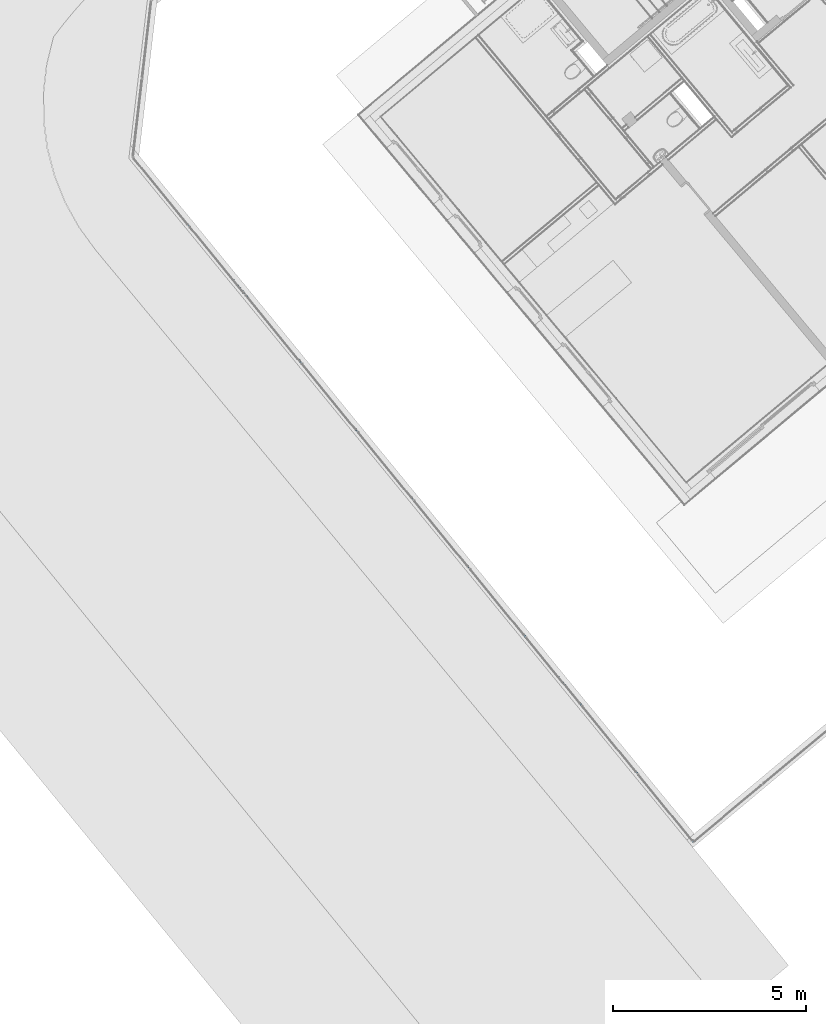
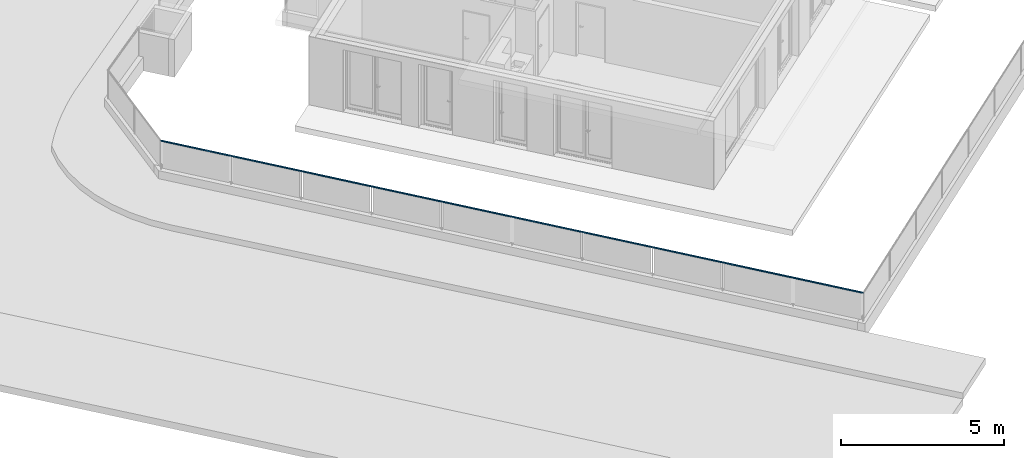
# One storey, part 19 of 75: 1 building element part, 1 element without a shape of its own.
"""IFC4 building model written with IfcOpenShell, lengths in metres."""

from ifc_helpers import new_model, entity, si_unit, converted_unit, derived_unit, direction, frame, origin_with_axes, place, context, subcontext, project, spatial, polygons, material, type_object, element, aggregate, save


model = new_model("IFC4")

# Units and contexts
model_context = context("Model", 3, precision=1e-05, world=origin_with_axes(), true_north=direction((0.0, 1.0)))
body_context = subcontext(model_context, "Body", "Model", "MODEL_VIEW")
ifc_project = project(units=[si_unit("LENGTHUNIT", "METRE"), si_unit("AREAUNIT", "SQUARE_METRE"), si_unit("VOLUMEUNIT", "CUBIC_METRE"), converted_unit("PLANEANGLEUNIT", "DEGREE", entity("IfcPlaneAngleMeasure", 0.0174532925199), si_unit("PLANEANGLEUNIT", "RADIAN"), dimensions=[0, 0, 0, 0, 0, 0, 0]), converted_unit("TIMEUNIT", "Year", entity("IfcTimeMeasure", 31556926.0), si_unit("TIMEUNIT", "SECOND"), dimensions=[0, 0, 1, 0, 0, 0, 0]), si_unit("MASSUNIT", "GRAM", prefix="KILO"), si_unit("THERMODYNAMICTEMPERATUREUNIT", "DEGREE_CELSIUS"), si_unit("LUMINOUSINTENSITYUNIT", "LUMEN"), si_unit("ENERGYUNIT", "JOULE", prefix="MEGA"), derived_unit("THERMALCONDUCTANCEUNIT", [(si_unit("POWERUNIT", "WATT"), 1), (si_unit("LENGTHUNIT", "METRE"), -1), (si_unit("THERMODYNAMICTEMPERATUREUNIT", "KELVIN"), -1)]), derived_unit("SPECIFICHEATCAPACITYUNIT", [(si_unit("ENERGYUNIT", "JOULE"), 1), (si_unit("MASSUNIT", "GRAM", prefix="KILO"), -1), (si_unit("THERMODYNAMICTEMPERATUREUNIT", "KELVIN"), -1)]), derived_unit("MASSDENSITYUNIT", [(si_unit("MASSUNIT", "GRAM", prefix="KILO"), 1), (si_unit("VOLUMEUNIT", "CUBIC_METRE"), -1)])], contexts=[model_context])

# Site, building, storey
site_placement = place(None, frame((-0.00153261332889, -0.00661245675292, 0.0), z_axis=(0.0, 0.0, 1.0), x_axis=(1.0, 0.0, 0.0)))
site = spatial("IfcSite", under=ifc_project, at=site_placement, Name="Gelände", CompositionType="ELEMENT")
building_placement = place(site_placement, origin_with_axes())
building = spatial("IfcBuilding", under=site, at=building_placement, Name="Gebäude", CompositionType="ELEMENT")
storey_placement = place(building_placement, frame((0.0, 0.0, -0.22), z_axis=(0.0, 0.0, 1.0), x_axis=(1.0, 0.0, 0.0)))
storey = spatial("IfcBuildingStorey", under=building, at=storey_placement, Name="EG", CompositionType="ELEMENT", Elevation=-0.22)

# Railing, building element part
railing_type = type_object("IfcRailingType", Name="Geländerart", PredefinedType="NOTDEFINED")
railing_placement = place(storey_placement, frame((-12.1608341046, 23.557810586, 0.523948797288), z_axis=(0.0, 0.0, 1.0), x_axis=(1.0, 0.0, 0.0)))
railing = element("IfcRailing", 1, at=railing_placement, inside=storey, type_object=railing_type, Name="Geländer - 001", PredefinedType="NOTDEFINED")
ifc_material = material(Name="Aluminium")
building_element_part_placement = place(railing_placement, origin_with_axes())
building_element_part = element("IfcBuildingElementPart", 2, at=building_element_part_placement, material=ifc_material, Name="Aluminium", PredefinedType="NOTDEFINED", context=body_context, shape_type="Tessellation", body=[
    polygons([(-2.3774611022, -5.65005751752, 1.07636363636), (-2.37770623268, -5.65012924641, 1.07634109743), (12.1743622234, -23.4243631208, 1.07634109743), (12.1743936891, -23.4240304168, 1.07636363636), (-2.3774611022, -5.65005751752, 1.07818181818), (-2.37739667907, -5.65003866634, 1.07820551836), (-2.37395885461, -5.64903270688, 1.0792391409), (-2.37047128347, -5.64801219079, 1.07983921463), (-2.36696050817, -5.64698488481, 1.08000117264), (-2.3668940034, -5.64696542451, 1.08), (-2.36682749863, -5.64694596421, 1.08000117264), (-2.36331672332, -5.64591865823, 1.07983921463), (-2.35982915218, -5.64489814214, 1.0792391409), (-2.35639132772, -5.64389218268, 1.07820551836), (-2.35632690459, -5.64387333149, 1.07818181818), (-2.35632690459, -5.64387333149, 1.07636363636), (-2.35608177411, -5.64380160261, 1.07634109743), (-2.35517402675, -5.64353598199, 1.0761115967), (-2.35430786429, -5.64328252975, 1.07565956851), (-2.35350960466, -5.6430489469, 1.07499874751), (-2.35280350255, -5.64284233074, 1.0741492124), (-2.35221101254, -5.6426689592, 1.07313677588), (-2.35175013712, -5.64253410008, 1.07199220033), (-2.35143487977, -5.642441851, 1.07075026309), (-2.35127481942, -5.64239501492, 1.06944869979), (-2.35127481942, -5.64239501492, 1.06812705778), (-2.35143487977, -5.642441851, 1.06682549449), (-2.35175013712, -5.64253410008, 1.06558355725), (-2.35221101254, -5.6426689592, 1.06443898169), (-2.35280350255, -5.64284233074, 1.06342654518), (-2.35350960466, -5.6430489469, 1.06257701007), (-2.35430786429, -5.64328252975, 1.06191618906), (-2.35517402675, -5.64353598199, 1.06146416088), (-2.35608177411, -5.64380160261, 1.06123466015), (-2.35632690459, -5.64387333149, 1.06121212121), (-2.35632690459, -5.64387333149, 1.05818181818), (-2.35649264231, -5.64392182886, 1.05810011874), (-2.35726473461, -5.64414775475, 1.05758389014), (-2.3579625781, -5.64435195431, 1.05688326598), (-2.35856496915, -5.64452822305, 1.05601953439), (-2.35905360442, -5.64467120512, 1.05501893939), (-2.35941363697, -5.6447765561, 1.05391188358), (-2.3596341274, -5.64484107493, 1.05273200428), (-2.35970837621, -5.64486280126, 1.05151515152), (-2.3596341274, -5.64484107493, 1.05029829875), (-2.35941363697, -5.6447765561, 1.04911841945), (-2.35905360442, -5.64467120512, 1.04801136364), (-2.35856496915, -5.64452822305, 1.04701076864), (-2.3579625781, -5.64435195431, 1.04614703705), (-2.35726473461, -5.64414775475, 1.04544641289), (-2.35649264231, -5.64392182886, 1.04493018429), (-2.35632690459, -5.64387333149, 1.04484848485), (-2.35632690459, -5.64387333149, 1.04), (-2.3774611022, -5.65005751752, 1.04), (-2.3774611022, -5.65005751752, 1.04484848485), (-2.37729536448, -5.65000902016, 1.04493018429), (-2.37652327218, -5.64978309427, 1.04544641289), (-2.3758254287, -5.64957889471, 1.04614703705), (-2.37522303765, -5.64940262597, 1.04701076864), (-2.37473440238, -5.64925964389, 1.04801136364), (-2.37437436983, -5.64915429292, 1.04911841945), (-2.3741538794, -5.64908977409, 1.05029829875), (-2.37407963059, -5.64906804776, 1.05151515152), (-2.3741538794, -5.64908977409, 1.05273200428), (-2.37437436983, -5.64915429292, 1.05391188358), (-2.37473440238, -5.64925964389, 1.05501893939), (-2.37522303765, -5.64940262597, 1.05601953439), (-2.3758254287, -5.64957889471, 1.05688326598), (-2.37652327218, -5.64978309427, 1.05758389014), (-2.37729536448, -5.65000902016, 1.05810011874), (-2.3774611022, -5.65005751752, 1.05818181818), (-2.3774611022, -5.65005751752, 1.06121212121), (-2.37770623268, -5.65012924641, 1.06123466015), (-2.37861398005, -5.65039486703, 1.06146416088), (-2.3794801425, -5.65064831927, 1.06191618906), (-2.38027840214, -5.65088190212, 1.06257701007), (-2.38098450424, -5.65108851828, 1.06342654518), (-2.38157699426, -5.65126188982, 1.06443898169), (-2.38203786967, -5.65139674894, 1.06558355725), (-2.38235312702, -5.65148899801, 1.06682549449), (-2.38251318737, -5.6515358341, 1.06812705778), (-2.38251318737, -5.6515358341, 1.06944869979), (-2.38235312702, -5.65148899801, 1.07075026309), (-2.38203786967, -5.65139674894, 1.07199220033), (-2.38157699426, -5.65126188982, 1.07313677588), (-2.38098450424, -5.65108851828, 1.0741492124), (-2.38027840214, -5.65088190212, 1.07499874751), (-2.3794801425, -5.65064831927, 1.07565956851), (-2.37861398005, -5.65039486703, 1.0761115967), (12.1742457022, -23.4255951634, 1.0761115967), (12.1741345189, -23.4267707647, 1.07565956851), (12.1740320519, -23.4278542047, 1.07499874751), (12.1739414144, -23.4288125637, 1.0741492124), (12.1738653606, -23.4296167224, 1.07313677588), (12.1738062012, -23.4302422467, 1.07199220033), (12.1737657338, -23.4306701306, 1.07075026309), (12.1737451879, -23.430887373, 1.06944869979), (12.1737451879, -23.430887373, 1.06812705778), (12.1737657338, -23.4306701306, 1.06682549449), (12.1738062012, -23.4302422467, 1.06558355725), (12.1738653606, -23.4296167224, 1.06443898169), (12.1739414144, -23.4288125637, 1.06342654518), (12.1740320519, -23.4278542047, 1.06257701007), (12.1741345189, -23.4267707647, 1.06191618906), (12.1742457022, -23.4255951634, 1.06146416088), (12.1743622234, -23.4243631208, 1.06123466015), (12.1743936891, -23.4240304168, 1.06121212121), (12.1743936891, -23.4240304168, 1.05818181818), (12.1744149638, -23.4238054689, 1.05810011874), (12.1745140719, -23.4227575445, 1.05758389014), (12.1746036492, -23.4218103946, 1.05688326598), (12.174680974, -23.4209927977, 1.05601953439), (12.1747436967, -23.4203295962, 1.05501893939), (12.1747899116, -23.419840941, 1.05391188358), (12.1748182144, -23.4195416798, 1.05273200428), (12.1748277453, -23.4194409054, 1.05151515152), (12.1748182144, -23.4195416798, 1.05029829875), (12.1747899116, -23.419840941, 1.04911841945), (12.1747436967, -23.4203295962, 1.04801136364), (12.174680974, -23.4209927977, 1.04701076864), (12.1746036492, -23.4218103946, 1.04614703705), (12.1745140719, -23.4227575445, 1.04544641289), (12.1744149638, -23.4238054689, 1.04493018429), (12.1743936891, -23.4240304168, 1.04484848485), (12.1743936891, -23.4240304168, 1.04), (12.1771065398, -23.3953459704, 1.04), (12.1771065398, -23.3953459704, 1.04484848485), (12.1770852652, -23.3955709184, 1.04493018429), (12.176986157, -23.3966188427, 1.04544641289), (12.1768965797, -23.3975659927, 1.04614703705), (12.1768192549, -23.3983835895, 1.04701076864), (12.1767565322, -23.3990467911, 1.04801136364), (12.1767103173, -23.3995354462, 1.04911841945), (12.1766820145, -23.3998347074, 1.05029829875), (12.1766724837, -23.3999354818, 1.05151515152), (12.1766820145, -23.3998347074, 1.05273200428), (12.1767103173, -23.3995354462, 1.05391188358), (12.1767565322, -23.3990467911, 1.05501893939), (12.1768192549, -23.3983835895, 1.05601953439), (12.1768965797, -23.3975659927, 1.05688326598), (12.176986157, -23.3966188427, 1.05758389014), (12.1770852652, -23.3955709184, 1.05810011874), (12.1771065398, -23.3953459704, 1.05818181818), (12.1771065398, -23.3953459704, 1.06121212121), (12.1771380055, -23.3950132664, 1.06123466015), (12.1772545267, -23.3937812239, 1.06146416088), (12.17736571, -23.3926056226, 1.06191618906), (12.1774681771, -23.3915221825, 1.06257701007), (12.1775588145, -23.3905638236, 1.06342654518), (12.1776348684, -23.3897596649, 1.06443898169), (12.1776940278, -23.3891341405, 1.06558355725), (12.1777344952, -23.3887062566, 1.06682549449), (12.177755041, -23.3884890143, 1.06812705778), (12.177755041, -23.3884890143, 1.06944869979), (12.1777344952, -23.3887062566, 1.07075026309), (12.1776940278, -23.3891341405, 1.07199220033), (12.1776348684, -23.3897596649, 1.07313677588), (12.1775588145, -23.3905638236, 1.0741492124), (12.1774681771, -23.3915221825, 1.07499874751), (12.17736571, -23.3926056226, 1.07565956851), (12.1772545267, -23.3937812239, 1.0761115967), (12.1771380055, -23.3950132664, 1.07634109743), (12.1771065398, -23.3953459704, 1.07636363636), (12.1771065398, -23.3953459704, 1.07818181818), (12.1770982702, -23.3954334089, 1.07820551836), (12.1766569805, -23.4000994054, 1.0792391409), (12.1762093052, -23.4048329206, 1.07983921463), (12.1757586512, -23.4095979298, 1.08000117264), (12.1757501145, -23.4096881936, 1.08), (12.1757415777, -23.4097784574, 1.08000117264), (12.1752909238, -23.4145434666, 1.07983921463), (12.1748432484, -23.4192769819, 1.0792391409), (12.1744019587, -23.4239429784, 1.07820551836), (12.1743936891, -23.4240304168, 1.07818181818)], [[[1, 2, 3, 4]], [[1, 5, 6, 7, 8, 9, 10, 11, 12, 13, 14, 15, 16, 17, 18, 19, 20, 21, 22, 23, 24, 25, 26, 27, 28, 29, 30, 31, 32, 33, 34, 35, 36, 37, 38, 39, 40, 41, 42, 43, 44, 45, 46, 47, 48, 49, 50, 51, 52, 53, 54, 55, 56, 57, 58, 59, 60, 61, 62, 63, 64, 65, 66, 67, 68, 69, 70, 71, 72, 73, 74, 75, 76, 77, 78, 79, 80, 81, 82, 83, 84, 85, 86, 87, 88, 89, 2]], [[2, 89, 90, 3]], [[4, 3, 90, 91, 92, 93, 94, 95, 96, 97, 98, 99, 100, 101, 102, 103, 104, 105, 106, 107, 108, 109, 110, 111, 112, 113, 114, 115, 116, 117, 118, 119, 120, 121, 122, 123, 124, 125, 126, 127, 128, 129, 130, 131, 132, 133, 134, 135, 136, 137, 138, 139, 140, 141, 142, 143, 144, 145, 146, 147, 148, 149, 150, 151, 152, 153, 154, 155, 156, 157, 158, 159, 160, 161, 162, 163, 164, 165, 166, 167, 168, 169, 170, 171, 172, 173, 174]], [[5, 1, 4, 174]], [[6, 5, 174, 173]], [[7, 6, 173, 172]], [[8, 7, 172, 171]], [[9, 8, 171, 170]], [[10, 9, 170, 169]], [[11, 10, 169, 168]], [[12, 11, 168, 167]], [[13, 12, 167, 166]], [[14, 13, 166, 165]], [[15, 14, 165, 164]], [[16, 15, 164, 163]], [[17, 16, 163, 162]], [[18, 17, 162, 161]], [[19, 18, 161, 160]], [[20, 19, 160, 159]], [[21, 20, 159, 158]], [[22, 21, 158, 157]], [[23, 22, 157, 156]], [[24, 23, 156, 155]], [[25, 24, 155, 154]], [[26, 25, 154, 153]], [[27, 26, 153, 152]], [[28, 27, 152, 151]], [[29, 28, 151, 150]], [[30, 29, 150, 149]], [[31, 30, 149, 148]], [[32, 31, 148, 147]], [[33, 32, 147, 146]], [[34, 33, 146, 145]], [[35, 34, 145, 144]], [[36, 35, 144, 143]], [[37, 36, 143, 142]], [[38, 37, 142, 141]], [[39, 38, 141, 140]], [[40, 39, 140, 139]], [[41, 40, 139, 138]], [[42, 41, 138, 137]], [[43, 42, 137, 136]], [[44, 43, 136, 135]], [[45, 44, 135, 134]], [[46, 45, 134, 133]], [[47, 46, 133, 132]], [[48, 47, 132, 131]], [[49, 48, 131, 130]], [[50, 49, 130, 129]], [[51, 50, 129, 128]], [[52, 51, 128, 127]], [[53, 52, 127, 126]], [[54, 53, 126, 125]], [[55, 54, 125, 124]], [[56, 55, 124, 123]], [[57, 56, 123, 122]], [[58, 57, 122, 121]], [[59, 58, 121, 120]], [[60, 59, 120, 119]], [[61, 60, 119, 118]], [[62, 61, 118, 117]], [[63, 62, 117, 116]], [[64, 63, 116, 115]], [[65, 64, 115, 114]], [[66, 65, 114, 113]], [[67, 66, 113, 112]], [[68, 67, 112, 111]], [[69, 68, 111, 110]], [[70, 69, 110, 109]], [[71, 70, 109, 108]], [[72, 71, 108, 107]], [[73, 72, 107, 106]], [[74, 73, 106, 105]], [[75, 74, 105, 104]], [[76, 75, 104, 103]], [[77, 76, 103, 102]], [[78, 77, 102, 101]], [[79, 78, 101, 100]], [[80, 79, 100, 99]], [[81, 80, 99, 98]], [[82, 81, 98, 97]], [[83, 82, 97, 96]], [[84, 83, 96, 95]], [[85, 84, 95, 94]], [[86, 85, 94, 93]], [[87, 86, 93, 92]], [[88, 87, 92, 91]], [[89, 88, 91, 90]]], closed=True),
])
aggregate(railing, [building_element_part])

save(model, "model.ifc")
